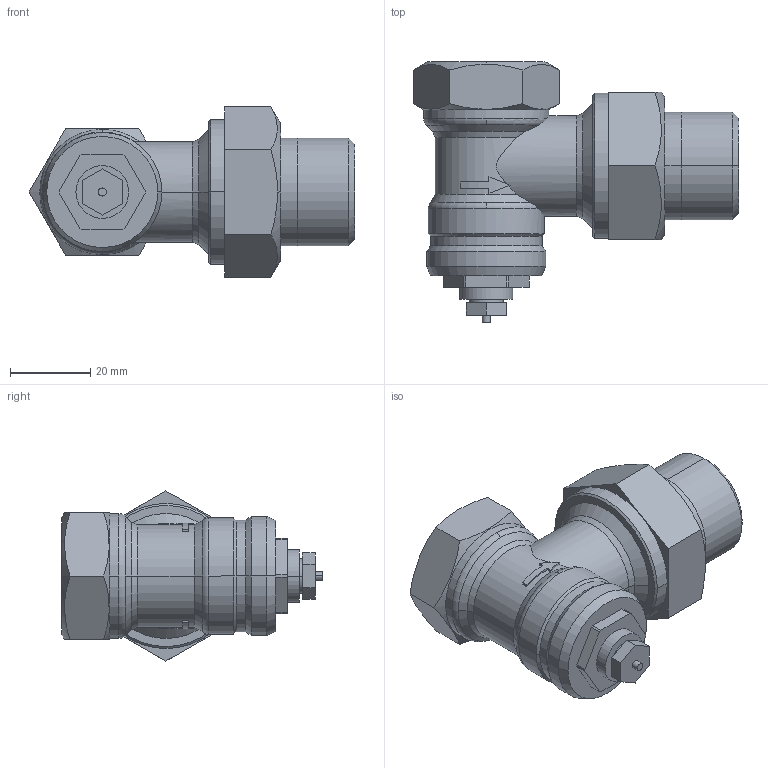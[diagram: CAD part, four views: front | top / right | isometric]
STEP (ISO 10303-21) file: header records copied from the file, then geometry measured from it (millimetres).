
FILE_DESCRIPTION((''),'2;1');
FILE_NAME('000042.stp','2006-09-29T17:14:22',(''),(''),'Mechanical Desktop 2006','Mechanical Desktop 2006',', , ');
FILE_SCHEMA(('AUTOMOTIVE_DESIGN { 1 2 10303 214 0 1 1 1 }'));
Length unit declared in the file: millimetre
Products named in the file (1): Product
Bounding box: 81.24 x 65 x 42.43 mm (x, y, z)
Volume: 62272 mm3; surface area: 16919.2 mm2
Topology: 10 solids, 10 shells, 129 faces, 300 edges, 193 vertices
Faces by surface type: plane 56, cylinder 32, cone 26, bspline 9, torus 6
Entity records: 3851 total; most frequent: CARTESIAN_POINT 885, DIRECTION 604, ORIENTED_EDGE 600, EDGE_CURVE 300, AXIS2_PLACEMENT_3D 227, VERTEX_POINT 193, VECTOR 150, LINE 150
